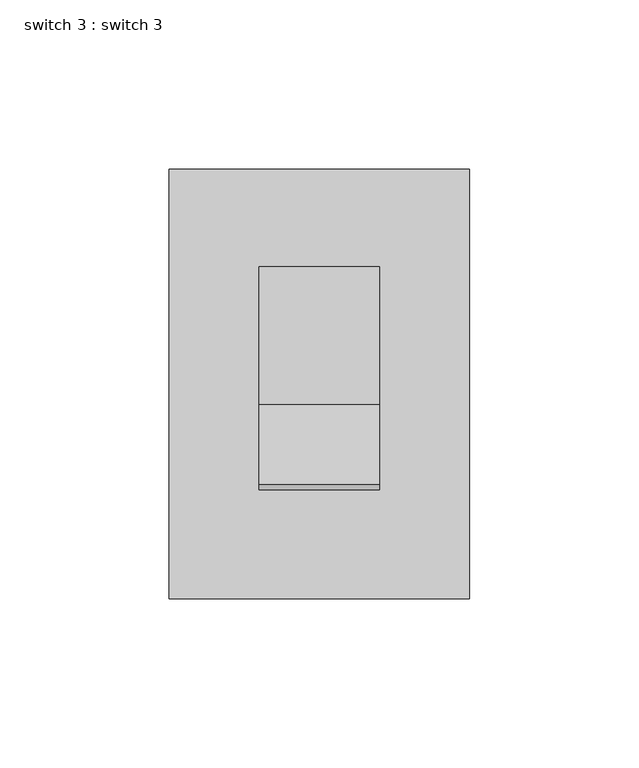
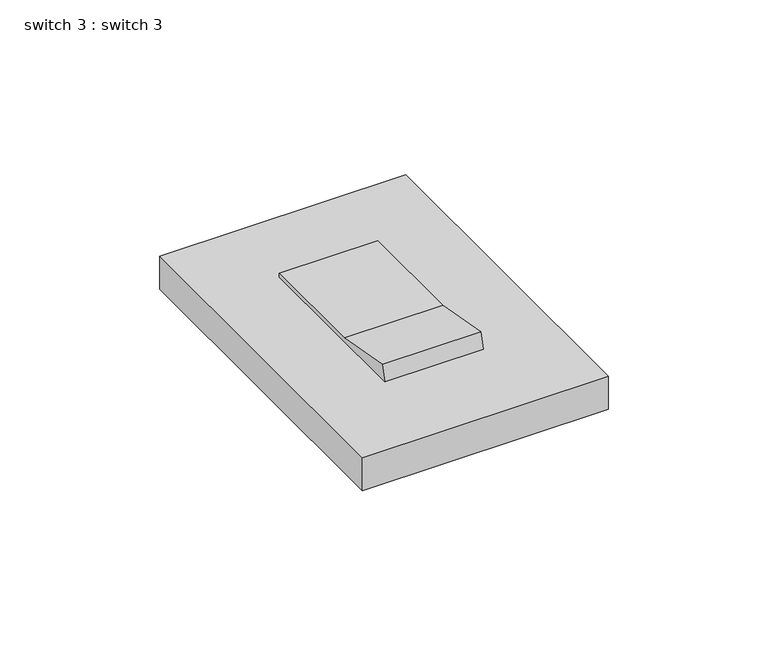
"""IFC4 building model written with IfcOpenShell, lengths in millimetres: proxy geometry, switch 3 : switch 3."""

from ifc_helpers import new_model, si_unit, frame, origin, origin_with_axes, place, context, project, spatial, polyline, outline, extrude, source, transform, mapped, element, save


def switch_3_switch_3_7c683c41(model_context):
    return source(origin(), model_context, "Body", "SweptSolid", [
        extrude(outline(polyline([(32.2906079, 12.7), (33.8653919, 18.4607675), (57.5230276, 14.2887413), (98.1762284, 14.2887413), (98.1762284, 12.7), (32.2906079, 12.7)])), frame((-17.7848632, 0.0, 0.0), z_axis=(1.0, 0.0, 0.0), x_axis=(0.0, 1.0, 0.0)), (0.0, 0.0, 1.0), 35.5697265),
        extrude(outline(polyline([(-44.45, 127.0), (44.45, 127.0), (44.45, 0.0), (-44.45, 0.0), (-44.45, 127.0)])), origin_with_axes(), (0.0, 0.0, 1.0), 12.7),
    ])


if __name__ == "__main__":
    model = new_model("IFC4")
    model_context = context("Model", 3, world=origin())
    ifc_project = project(units=[si_unit("LENGTHUNIT", "METRE", prefix="MILLI")], contexts=[model_context])
    site = spatial("IfcSite", under=ifc_project)
    building = spatial("IfcBuilding", under=site)
    placement = place(None, origin())
    switch_3_switch_3_shape = switch_3_switch_3_7c683c41(model_context)
    element("IfcBuildingElementProxy", 1, Name="switch 3 : switch 3", ObjectType="switch 3 : switch 3", at=placement, inside=building, context=model_context, shape_type="MappedRepresentation", body=[
        mapped(switch_3_switch_3_shape, transform((0.0, 0.0, 0.0), x_axis=(1.0, 0.0, 0.0), y_axis=(0.0, 1.0, 0.0), z_axis=(0.0, 0.0, 1.0))),
    ])
    save(model, "model.ifc")
